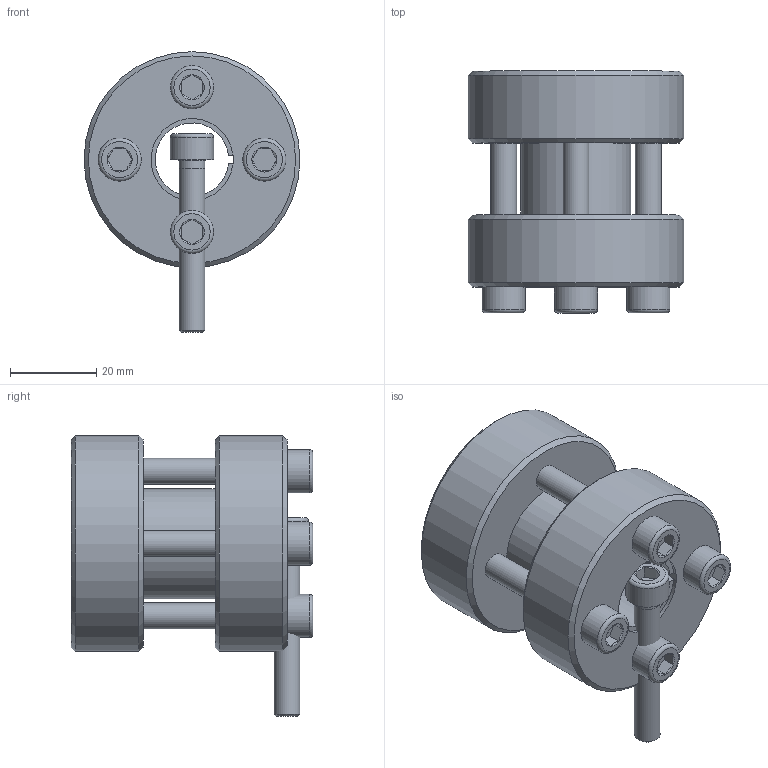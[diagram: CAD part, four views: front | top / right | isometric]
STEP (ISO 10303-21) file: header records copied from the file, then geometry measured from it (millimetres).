
FILE_DESCRIPTION( ( 'Unknown' ), '1' );
FILE_NAME( 'C:/Dokumente und Einstellungen/Sven/Desktop/homepage/cad - homepage/KBS95/KBS 95 - 17 x 50.stp', 'Unknown', ( 'Unknown' ), ( 'Unknown' ), 'XStep 1.0', 'Unknown', ' ' );
FILE_SCHEMA( ( 'automotive_design' ) );
Length unit declared in the file: millimetre
Products named in the file (3): Assem1; KBS 95 - 17 x 50; ISO EN DIN 4762 M6x40
Bounding box: 50 x 56 x 65 mm (x, y, z)
Volume: 123841 mm3; surface area: 40929.1 mm2
Topology: 7 solids, 7 shells, 181 faces, 379 edges, 232 vertices
Faces by surface type: plane 80, cone 47, cylinder 44, torus 10
Full cylindrical faces by diameter (mm): 5 x5, 6 x26, 10 x5, 50 x4
Entity records: 1702 total; most frequent: CARTESIAN_POINT 295, DIRECTION 252, ORIENTED_EDGE 190, AXIS2_PLACEMENT_3D 108, EDGE_LOOP 98, EDGE_CURVE 95, VERTEX_POINT 71, FACE_OUTER_BOUND 69
